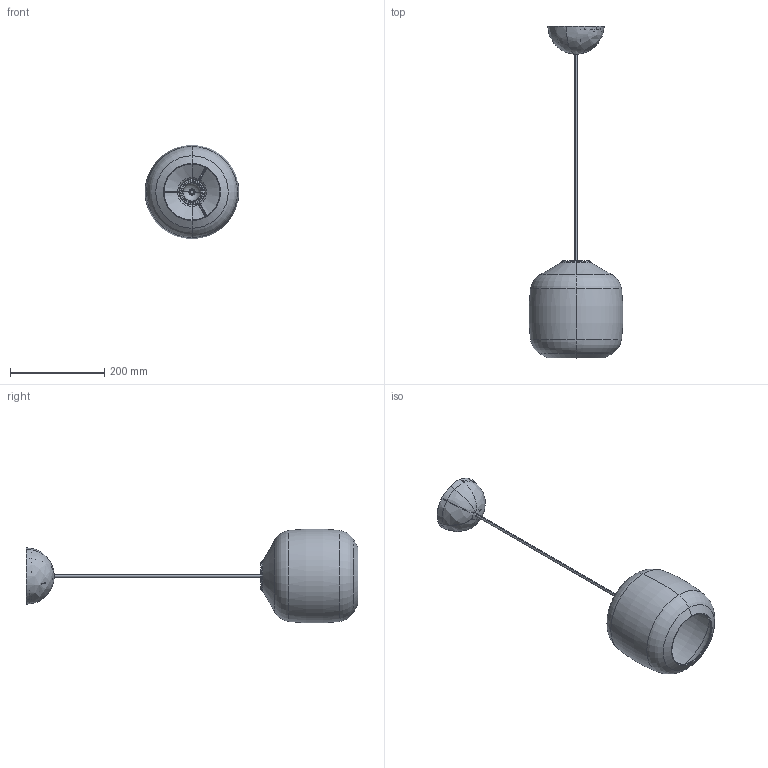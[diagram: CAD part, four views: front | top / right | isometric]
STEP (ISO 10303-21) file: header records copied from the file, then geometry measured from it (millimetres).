
FILE_DESCRIPTION (( 'STEP AP203' ), '1' );
FILE_NAME ('3D.STEP', '2024-10-21T12:38:05', ( '' ), ( '' ), 'SwSTEP 2.0', 'SolidWorks 2022', '' );
FILE_SCHEMA (( 'CONFIG_CONTROL_DESIGN' ));
Length unit declared in the file: millimetre
Products named in the file (10): CUT-EXTRUDE2_8_71-1.STEP.STEP; HAY_CommonCordSet_Pendnat(2)^HAY_CommonCordSet_Pendnat.STEP.STEP; Pendant Cordset E27.STEP.STEP; E27____.STEP.STEP; BP_AmbientPendant__200.STEP; COMBINE3_8_11-1.STEP.STEP; 3D; HAY_AspektPendant_MP01_Tripod_FINAL.STEP; DomedCanopy_MP01_Canopy^HAY_CommonCordSet_Pendnat(2)_HAY_CommonCordSet_Pendnat.STEP.STEP; 6mm_FabricCable^HAY_CommonCordSet_Pendnat(2)_HAY_CommonCordSet_Pendnat.STEP.STEP
Assembly tree (9 placements, depth 4):
  3D
    Pendant Cordset E27.STEP.STEP
      HAY_CommonCordSet_Pendnat(2)^HAY_CommonCordSet_Pendnat.STEP.STEP
        6mm_FabricCable^HAY_CommonCordSet_Pendnat(2)_HAY_CommonCordSet_Pendnat.STEP.STEP
        DomedCanopy_MP01_Canopy^HAY_CommonCordSet_Pendnat(2)_HAY_CommonCordSet_Pendnat.STEP.STEP
      E27____.STEP.STEP
        CUT-EXTRUDE2_8_71-1.STEP.STEP
        COMBINE3_8_11-1.STEP.STEP
    BP_AmbientPendant__200.STEP
    HAY_AspektPendant_MP01_Tripod_FINAL.STEP
Bounding box: 199.29 x 703.99 x 199.29 mm (x, y, z)
Volume: 535038.4 mm3; surface area: 376493.4 mm2
Topology: 6 solids, 6 shells, 476 faces, 1247 edges, 770 vertices
Faces by surface type: bspline 150, plane 106, cylinder 104, torus 79, sphere 20, cone 17
Entity records: 23170 total; most frequent: CARTESIAN_POINT 11240, ORIENTED_EDGE 2462, DIRECTION 2161, EDGE_CURVE 1231, AXIS2_PLACEMENT_3D 876, VERTEX_POINT 768, CIRCLE 535, EDGE_LOOP 497
